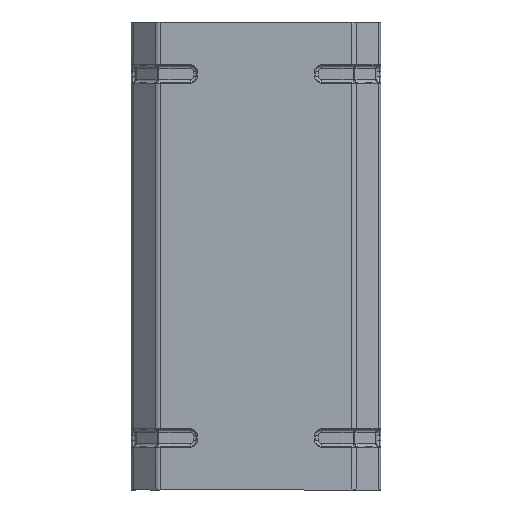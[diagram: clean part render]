
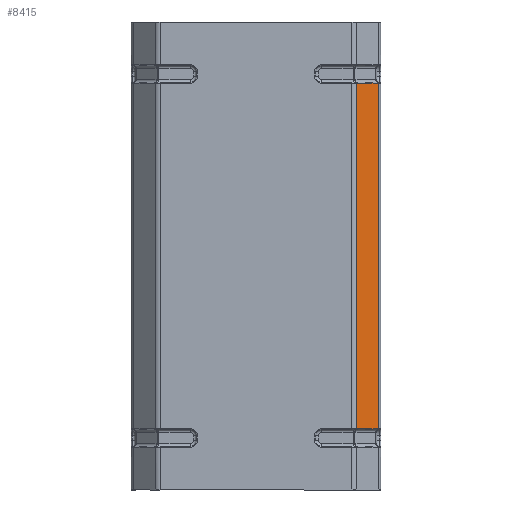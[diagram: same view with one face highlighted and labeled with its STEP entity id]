
A CAD part, front view. The second image highlights one B-rep face of the part: STEP entity #8415.
In plain terms, the highlighted planar face has unit normal (0.707, -0.707, 0).
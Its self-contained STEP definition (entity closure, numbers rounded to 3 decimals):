
#169 = CARTESIAN_POINT ( 'NONE',  ( 19.381, 0.381, 11.799 ) ) ;
#589 = VERTEX_POINT ( 'NONE', #10641 ) ;
#634 = LINE ( 'NONE', #4676, #2579 ) ;
#961 = VERTEX_POINT ( 'NONE', #11907 ) ;
#964 = VERTEX_POINT ( 'NONE', #13048 ) ;
#1104 = FACE_OUTER_BOUND ( 'NONE', #2746, .T. ) ;
#1533 = CARTESIAN_POINT ( 'NONE',  ( 19., 0., 11.798 ) ) ;
#1637 = CARTESIAN_POINT ( 'NONE',  ( 23.619, 4.619, 78.201 ) ) ;
#1989 = B_SPLINE_CURVE_WITH_KNOTS ( 'NONE', 3,
 ( #3958, #13058, #13180, #5914 ),
 .UNSPECIFIED., .F., .F.,
 ( 4, 4 ),
 ( 0., 0. ),
 .UNSPECIFIED. ) ;
#2021 = DIRECTION ( 'NONE',  ( -0.707, -0.707, 0. ) ) ;
#2102 = CARTESIAN_POINT ( 'NONE',  ( 23.619, 4.619, 78.201 ) ) ;
#2224 = DIRECTION ( 'NONE',  ( -0.707, 0.707, 0. ) ) ;
#2234 = ORIENTED_EDGE ( 'NONE', *, *, #8303, .T. ) ;
#2285 = ORIENTED_EDGE ( 'NONE', *, *, #10882, .T. ) ;
#2355 = ORIENTED_EDGE ( 'NONE', *, *, #5892, .T. ) ;
#2579 = VECTOR ( 'NONE', #2021, 1000. ) ;
#2746 = EDGE_LOOP ( 'NONE', ( #4198, #3730, #4328, #11749, #2234, #2355, #12334, #2285 ) ) ;
#3119 = CARTESIAN_POINT ( 'NONE',  ( 19.484, 0.484, 11.798 ) ) ;
#3425 = EDGE_CURVE ( 'NONE', #5694, #10953, #8549, .T. ) ;
#3683 = LINE ( 'NONE', #12042, #6843 ) ;
#3730 = ORIENTED_EDGE ( 'NONE', *, *, #3425, .T. ) ;
#3958 = CARTESIAN_POINT ( 'NONE',  ( 23.516, 4.516, 11.798 ) ) ;
#4020 = CARTESIAN_POINT ( 'NONE',  ( 23.516, 4.516, 11.798 ) ) ;
#4095 = B_SPLINE_CURVE_WITH_KNOTS ( 'NONE', 3,
 ( #6028, #9255, #10109, #13156 ),
 .UNSPECIFIED., .F., .F.,
 ( 4, 4 ),
 ( 0., 0. ),
 .UNSPECIFIED. ) ;
#4198 = ORIENTED_EDGE ( 'NONE', *, *, #10323, .F. ) ;
#4208 = CARTESIAN_POINT ( 'NONE',  ( 23.585, 4.585, 78.201 ) ) ;
#4328 = ORIENTED_EDGE ( 'NONE', *, *, #5833, .T. ) ;
#4488 = VECTOR ( 'NONE', #4776, 1000. ) ;
#4583 = CARTESIAN_POINT ( 'NONE',  ( 23.619, 4.619, 90. ) ) ;
#4676 = CARTESIAN_POINT ( 'NONE',  ( 19., 0., 78.202 ) ) ;
#4776 = DIRECTION ( 'NONE',  ( 0.707, 0.707, 0. ) ) ;
#5160 = PLANE ( 'NONE',  #5985 ) ;
#5229 = CARTESIAN_POINT ( 'NONE',  ( 19., 0., 90. ) ) ;
#5694 = VERTEX_POINT ( 'NONE', #1637 ) ;
#5701 = CARTESIAN_POINT ( 'NONE',  ( 19.381, 0.381, 11.799 ) ) ;
#5833 = EDGE_CURVE ( 'NONE', #10953, #589, #634, .T. ) ;
#5892 = EDGE_CURVE ( 'NONE', #7014, #12817, #8666, .T. ) ;
#5914 = CARTESIAN_POINT ( 'NONE',  ( 23.619, 4.619, 11.799 ) ) ;
#5985 = AXIS2_PLACEMENT_3D ( 'NONE', #5229, #2224, #8189 ) ;
#6028 = CARTESIAN_POINT ( 'NONE',  ( 19.484, 0.484, 78.202 ) ) ;
#6723 = VERTEX_POINT ( 'NONE', #4020 ) ;
#6843 = VECTOR ( 'NONE', #11972, 1000. ) ;
#7014 = VERTEX_POINT ( 'NONE', #5701 ) ;
#7177 = EDGE_CURVE ( 'NONE', #589, #964, #4095, .T. ) ;
#7982 = CARTESIAN_POINT ( 'NONE',  ( 19.415, 0.415, 11.799 ) ) ;
#8189 = DIRECTION ( 'NONE',  ( -0.707, -0.707, 0. ) ) ;
#8303 = EDGE_CURVE ( 'NONE', #964, #7014, #3683, .T. ) ;
#8415 = ADVANCED_FACE ( 'NONE', ( #1104 ), #5160, .F. ) ;
#8549 = B_SPLINE_CURVE_WITH_KNOTS ( 'NONE', 3,
 ( #2102, #4208, #13172, #9123 ),
 .UNSPECIFIED., .F., .F.,
 ( 4, 4 ),
 ( 0., 0. ),
 .UNSPECIFIED. ) ;
#8666 = B_SPLINE_CURVE_WITH_KNOTS ( 'NONE', 3,
 ( #169, #7982, #12037, #3119 ),
 .UNSPECIFIED., .F., .F.,
 ( 4, 4 ),
 ( 0., 0. ),
 .UNSPECIFIED. ) ;
#8753 = LINE ( 'NONE', #1533, #4488 ) ;
#8833 = LINE ( 'NONE', #4583, #11069 ) ;
#9123 = CARTESIAN_POINT ( 'NONE',  ( 23.516, 4.516, 78.202 ) ) ;
#9255 = CARTESIAN_POINT ( 'NONE',  ( 19.45, 0.45, 78.202 ) ) ;
#9432 = EDGE_CURVE ( 'NONE', #12817, #6723, #8753, .T. ) ;
#9914 = CARTESIAN_POINT ( 'NONE',  ( 19.484, 0.484, 11.798 ) ) ;
#9941 = CARTESIAN_POINT ( 'NONE',  ( 23.516, 4.516, 78.202 ) ) ;
#10109 = CARTESIAN_POINT ( 'NONE',  ( 19.415, 0.415, 78.201 ) ) ;
#10323 = EDGE_CURVE ( 'NONE', #5694, #961, #8833, .T. ) ;
#10641 = CARTESIAN_POINT ( 'NONE',  ( 19.484, 0.484, 78.202 ) ) ;
#10882 = EDGE_CURVE ( 'NONE', #6723, #961, #1989, .T. ) ;
#10953 = VERTEX_POINT ( 'NONE', #9941 ) ;
#11069 = VECTOR ( 'NONE', #12737, 1000. ) ;
#11749 = ORIENTED_EDGE ( 'NONE', *, *, #7177, .T. ) ;
#11907 = CARTESIAN_POINT ( 'NONE',  ( 23.619, 4.619, 11.799 ) ) ;
#11972 = DIRECTION ( 'NONE',  ( 0., 0., -1. ) ) ;
#12037 = CARTESIAN_POINT ( 'NONE',  ( 19.45, 0.45, 11.798 ) ) ;
#12042 = CARTESIAN_POINT ( 'NONE',  ( 19.381, 0.381, 90. ) ) ;
#12334 = ORIENTED_EDGE ( 'NONE', *, *, #9432, .T. ) ;
#12737 = DIRECTION ( 'NONE',  ( 0., 0., -1. ) ) ;
#12817 = VERTEX_POINT ( 'NONE', #9914 ) ;
#13048 = CARTESIAN_POINT ( 'NONE',  ( 19.381, 0.381, 78.201 ) ) ;
#13058 = CARTESIAN_POINT ( 'NONE',  ( 23.55, 4.55, 11.798 ) ) ;
#13156 = CARTESIAN_POINT ( 'NONE',  ( 19.381, 0.381, 78.201 ) ) ;
#13172 = CARTESIAN_POINT ( 'NONE',  ( 23.55, 4.55, 78.202 ) ) ;
#13180 = CARTESIAN_POINT ( 'NONE',  ( 23.585, 4.585, 11.799 ) ) ;
